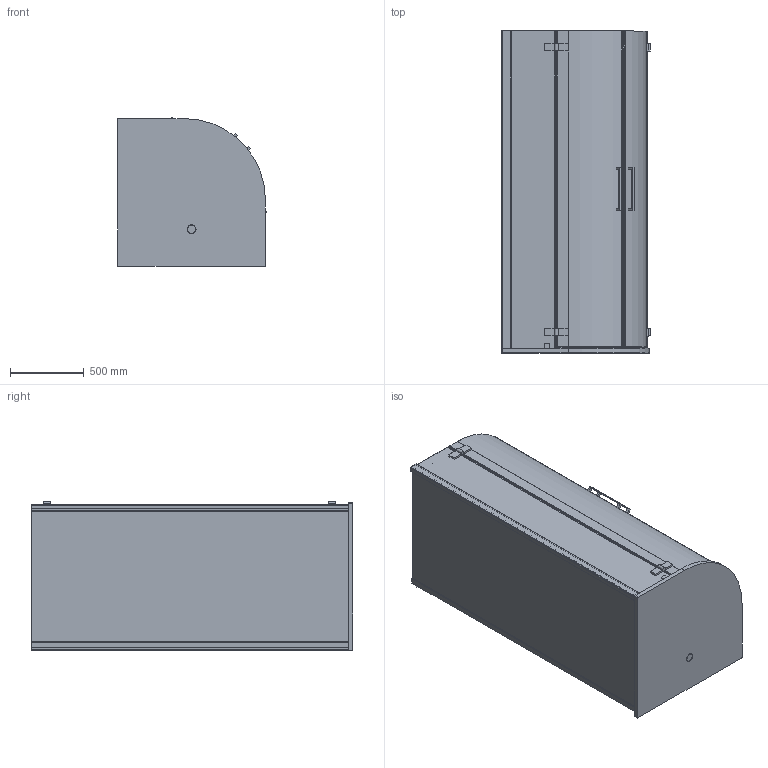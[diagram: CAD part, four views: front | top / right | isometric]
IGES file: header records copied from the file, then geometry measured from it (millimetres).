
Start section: SolidWorks IGES file using analytic representation for surfaces
Global section: file name: D:\Users\M.Szymanski\Desktop\Kabiny\SENSEPEREINCE\03. do przegrania\Senseperience_KP_1000x1000_K3D.IGS; native system: SolidWorks 2011; preprocessor: SolidWorks 2011; author: M.Szymanski; date: 181218.094350; units: millimetre
Bounding box: 1005.51 x 2180 x 1005.55 mm (x, y, z)
Surface area: 23865760.3 mm2 (no closed solid volume)
Topology: 0 solids, 0 shells, 1485 faces, 10821 edges, 13561 vertices
Faces by surface type: bspline 977, revolution 508
